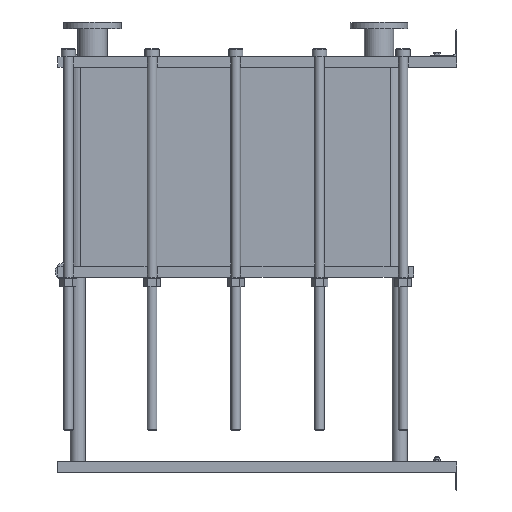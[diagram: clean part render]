
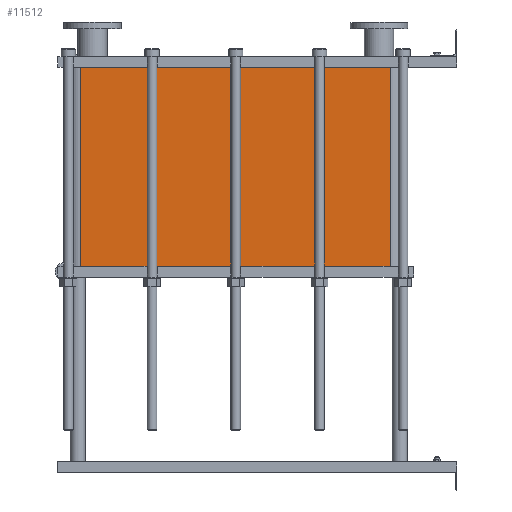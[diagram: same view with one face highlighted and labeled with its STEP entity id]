
A CAD part, left-side view. The second image highlights one B-rep face of the part: STEP entity #11512.
In plain terms, the highlighted planar face has unit normal (-1, 0, 0).
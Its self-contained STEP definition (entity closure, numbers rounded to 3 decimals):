
#1129=LINE('',#23232,#2102);
#1130=LINE('',#23236,#2103);
#1131=LINE('',#23238,#2104);
#1132=LINE('',#23239,#2105);
#2102=VECTOR('',#15887,10.);
#2103=VECTOR('',#15892,10.);
#2104=VECTOR('',#15893,10.);
#2105=VECTOR('',#15894,10.);
#3267=FACE_OUTER_BOUND('',#4093,.T.);
#4093=EDGE_LOOP('',(#10103,#10104,#10105,#10106));
#5642=VERTEX_POINT('',#23229);
#5643=VERTEX_POINT('',#23231);
#5644=VERTEX_POINT('',#23235);
#5645=VERTEX_POINT('',#23237);
#7159=EDGE_CURVE('',#5643,#5642,#1129,.T.);
#7161=EDGE_CURVE('',#5642,#5644,#1130,.T.);
#7162=EDGE_CURVE('',#5645,#5644,#1131,.T.);
#7163=EDGE_CURVE('',#5645,#5643,#1132,.T.);
#10103=ORIENTED_EDGE('',*,*,#7161,.T.);
#10104=ORIENTED_EDGE('',*,*,#7162,.F.);
#10105=ORIENTED_EDGE('',*,*,#7163,.T.);
#10106=ORIENTED_EDGE('',*,*,#7159,.T.);
#10857=PLANE('',#12751);
#11512=ADVANCED_FACE('',(#3267),#10857,.T.);
#12751=AXIS2_PLACEMENT_3D('',#23234,#15890,#15891);
#15887=DIRECTION('',(0.,0.,-1.));
#15890=DIRECTION('center_axis',(-1.,0.,0.));
#15891=DIRECTION('ref_axis',(0.,1.,0.));
#15892=DIRECTION('',(0.,-1.,0.));
#15893=DIRECTION('',(0.,0.,-1.));
#15894=DIRECTION('',(0.,1.,0.));
#23229=CARTESIAN_POINT('',(-200.,1414.,-748.65));
#23231=CARTESIAN_POINT('',(-200.,1414.,0.));
#23232=CARTESIAN_POINT('',(-200.,1414.,0.));
#23234=CARTESIAN_POINT('Origin',(-200.,248.,0.));
#23235=CARTESIAN_POINT('',(-200.,248.,-748.65));
#23236=CARTESIAN_POINT('',(-200.,539.5,-748.65));
#23237=CARTESIAN_POINT('',(-200.,248.,0.));
#23238=CARTESIAN_POINT('',(-200.,248.,0.));
#23239=CARTESIAN_POINT('',(-200.,248.,0.));
